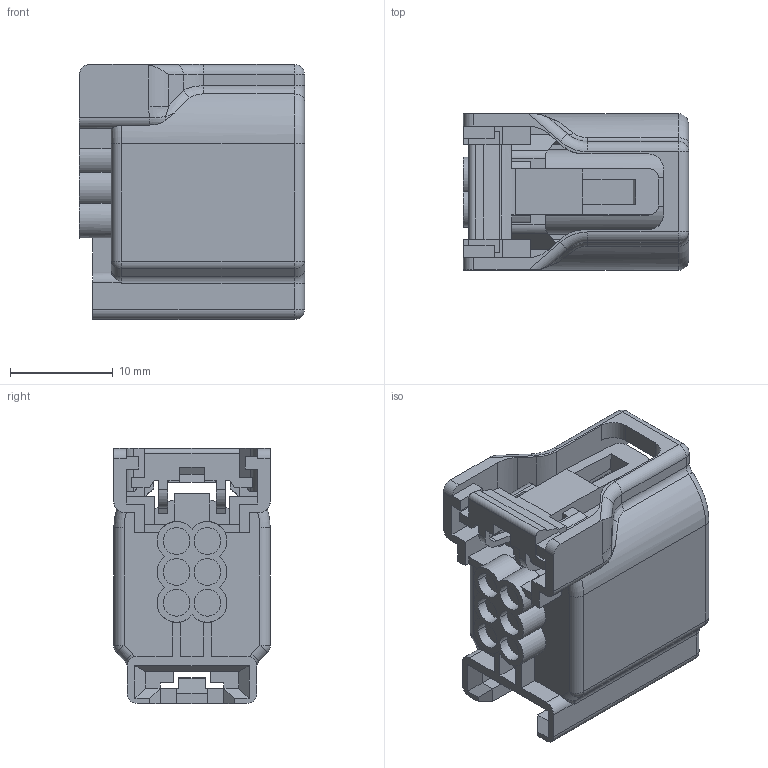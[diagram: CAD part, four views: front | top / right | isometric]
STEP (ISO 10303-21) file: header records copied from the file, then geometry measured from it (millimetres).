
FILE_DESCRIPTION(('CATIA V5 STEP Exchange'),'2;1');
FILE_NAME('N:\C-DAM_MyDesk\ENV\11093U\1設\6189-1142.stp','2013-02-28T03:08:04+00:00',('none'),('none'),'CATIA Version 5 Release 20 SP 4 (IN-10)','CATIA V5 STEP AP203','none');
FILE_SCHEMA(('CONFIG_CONTROL_DESIGN'));
Length unit declared in the file: millimetre
Products named in the file (1): 6189-1142
Bounding box: 21.9 x 15.2 x 24.8 mm (x, y, z)
Volume: 4682.7 mm3; surface area: 4743.2 mm2
Topology: 1 solids, 1 shells, 369 faces, 1032 edges, 654 vertices
Faces by surface type: plane 240, cylinder 93, torus 12, bspline 10, sphere 8, cone 6
Entity records: 11631 total; most frequent: CARTESIAN_POINT 2639, ORIENTED_EDGE 2048, DIRECTION 1523, EDGE_CURVE 1024, VECTOR 744, LINE 744, VERTEX_POINT 654, AXIS2_PLACEMENT_3D 496
